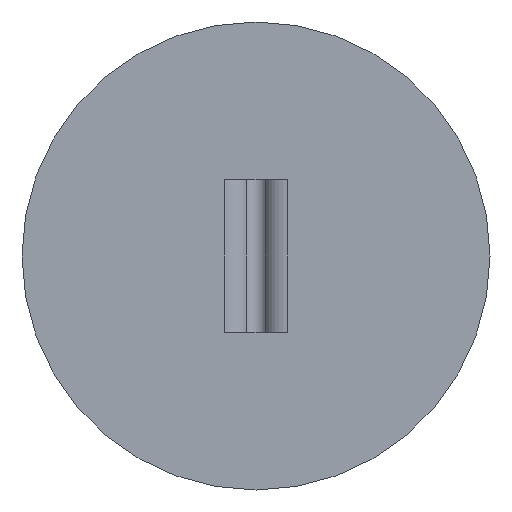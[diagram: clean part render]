
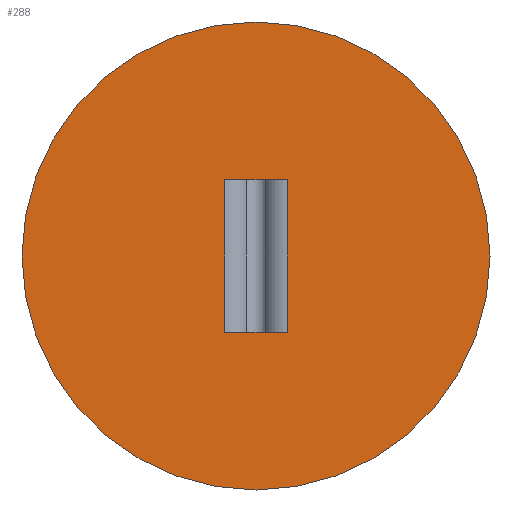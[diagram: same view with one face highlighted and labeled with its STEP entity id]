
A CAD part, front view. The second image highlights one B-rep face of the part: STEP entity #288.
In plain terms, the highlighted planar face has unit normal (0, -1, 0).
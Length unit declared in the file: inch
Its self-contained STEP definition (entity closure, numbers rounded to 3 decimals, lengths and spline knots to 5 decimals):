
#11 = DIRECTION ( 'NONE',  ( 1., 0., 0. ) ) ;
#25 = LINE ( 'NONE', #360, #106 ) ;
#45 = DIRECTION ( 'NONE',  ( 0., -1., 0. ) ) ;
#47 = CARTESIAN_POINT ( 'NONE',  ( 0., -0.059, 0.2035 ) ) ;
#65 = LINE ( 'NONE', #439, #355 ) ;
#89 = AXIS2_PLACEMENT_3D ( 'NONE', #47, #231, #444 ) ;
#92 = CARTESIAN_POINT ( 'NONE',  ( -0.08405, -0.059, 0.407 ) ) ;
#106 = VECTOR ( 'NONE', #463, 39.37008 ) ;
#113 = CARTESIAN_POINT ( 'NONE',  ( -0.08405, -0.059, 0. ) ) ;
#115 = EDGE_CURVE ( 'NONE', #398, #214, #194, .T. ) ;
#123 = PLANE ( 'NONE',  #361 ) ;
#124 = DIRECTION ( 'NONE',  ( -1., 0., 0. ) ) ;
#157 = ORIENTED_EDGE ( 'NONE', *, *, #184, .F. ) ;
#162 = CARTESIAN_POINT ( 'NONE',  ( 0.08405, -0.059, 0. ) ) ;
#163 = FACE_BOUND ( 'NONE', #445, .T. ) ;
#178 = CARTESIAN_POINT ( 'NONE',  ( 0.625, -0.059, 0.2035 ) ) ;
#183 = VERTEX_POINT ( 'NONE', #92 ) ;
#184 = EDGE_CURVE ( 'NONE', #413, #441, #418, .T. ) ;
#194 = LINE ( 'NONE', #345, #321 ) ;
#201 = FACE_OUTER_BOUND ( 'NONE', #473, .T. ) ;
#214 = VERTEX_POINT ( 'NONE', #162 ) ;
#220 = ORIENTED_EDGE ( 'NONE', *, *, #426, .F. ) ;
#228 = LINE ( 'NONE', #378, #293 ) ;
#231 = DIRECTION ( 'NONE',  ( 0., 1., 0. ) ) ;
#241 = EDGE_CURVE ( 'NONE', #365, #214, #65, .T. ) ;
#288 = ADVANCED_FACE ( 'NONE', ( #201, #163 ), #123, .T. ) ;
#293 = VECTOR ( 'NONE', #457, 39.37008 ) ;
#305 = EDGE_CURVE ( 'NONE', #441, #413, #437, .T. ) ;
#314 = AXIS2_PLACEMENT_3D ( 'NONE', #389, #386, #124 ) ;
#315 = CARTESIAN_POINT ( 'NONE',  ( -0.625, -0.059, 0.2035 ) ) ;
#321 = VECTOR ( 'NONE', #11, 39.37008 ) ;
#331 = DIRECTION ( 'NONE',  ( 0., 0., -1. ) ) ;
#343 = ORIENTED_EDGE ( 'NONE', *, *, #115, .F. ) ;
#345 = CARTESIAN_POINT ( 'NONE',  ( 0.08405, -0.059, 0. ) ) ;
#346 = CARTESIAN_POINT ( 'NONE',  ( 0.08405, -0.059, 0.407 ) ) ;
#355 = VECTOR ( 'NONE', #331, 39.37008 ) ;
#360 = CARTESIAN_POINT ( 'NONE',  ( 0.08405, -0.059, 0.407 ) ) ;
#361 = AXIS2_PLACEMENT_3D ( 'NONE', #407, #45, #414 ) ;
#365 = VERTEX_POINT ( 'NONE', #346 ) ;
#369 = ORIENTED_EDGE ( 'NONE', *, *, #448, .T. ) ;
#378 = CARTESIAN_POINT ( 'NONE',  ( -0.08405, -0.059, 0.407 ) ) ;
#386 = DIRECTION ( 'NONE',  ( 0., 1., 0. ) ) ;
#389 = CARTESIAN_POINT ( 'NONE',  ( 0., -0.059, 0.2035 ) ) ;
#398 = VERTEX_POINT ( 'NONE', #113 ) ;
#407 = CARTESIAN_POINT ( 'NONE',  ( 0.08405, -0.059, 0.407 ) ) ;
#413 = VERTEX_POINT ( 'NONE', #315 ) ;
#414 = DIRECTION ( 'NONE',  ( 1., 0., 0. ) ) ;
#418 = CIRCLE ( 'NONE', #314, 0.625 ) ;
#426 = EDGE_CURVE ( 'NONE', #183, #398, #228, .T. ) ;
#429 = ORIENTED_EDGE ( 'NONE', *, *, #241, .T. ) ;
#435 = ORIENTED_EDGE ( 'NONE', *, *, #305, .F. ) ;
#437 = CIRCLE ( 'NONE', #89, 0.625 ) ;
#439 = CARTESIAN_POINT ( 'NONE',  ( 0.08405, -0.059, 0.407 ) ) ;
#441 = VERTEX_POINT ( 'NONE', #178 ) ;
#444 = DIRECTION ( 'NONE',  ( -1., 0., 0. ) ) ;
#445 = EDGE_LOOP ( 'NONE', ( #369, #429, #343, #220 ) ) ;
#448 = EDGE_CURVE ( 'NONE', #183, #365, #25, .T. ) ;
#457 = DIRECTION ( 'NONE',  ( 0., 0., -1. ) ) ;
#463 = DIRECTION ( 'NONE',  ( 1., 0., 0. ) ) ;
#473 = EDGE_LOOP ( 'NONE', ( #435, #157 ) ) ;
